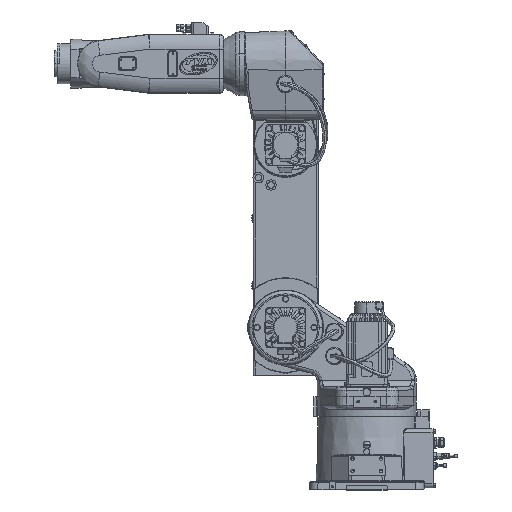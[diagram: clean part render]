
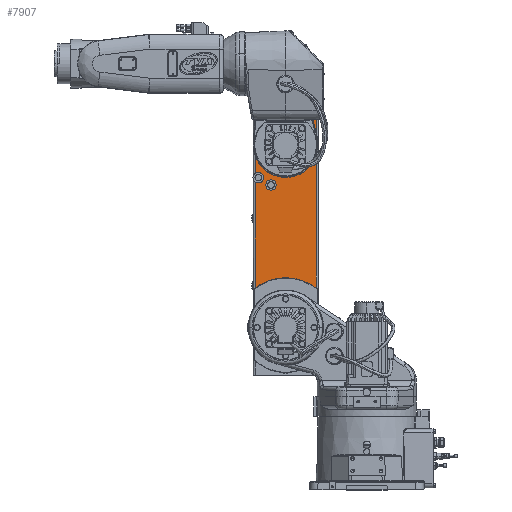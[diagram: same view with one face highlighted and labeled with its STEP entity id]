
A CAD part, top view. The second image highlights one B-rep face of the part: STEP entity #7907.
In plain terms, the highlighted planar face has unit normal (0, 0, 1).
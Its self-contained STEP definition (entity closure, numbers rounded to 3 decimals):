
#1307=DIRECTION('',(0.,-1.,0.));
#1308=VECTOR('',#1307,261.464);
#1309=CARTESIAN_POINT('',(-275.,758.952,-93.5));
#1310=LINE('',#1309,#1308);
#1323=DIRECTION('',(0.,-1.,0.));
#1324=VECTOR('',#1323,153.021);
#1325=CARTESIAN_POINT('',(-275.,933.2,-93.5));
#1326=LINE('',#1325,#1324);
#1365=CARTESIAN_POINT('',(-267.493,769.565,-93.5));
#1366=DIRECTION('',(0.,0.,1.));
#1367=DIRECTION('',(-0.577,-0.816,0.));
#1368=AXIS2_PLACEMENT_3D('',#1365,#1366,#1367);
#1370=CARTESIAN_POINT('',(-267.493,769.565,-93.5));
#1371=DIRECTION('',(0.,0.,1.));
#1372=DIRECTION('',(1.,0.,0.));
#1373=AXIS2_PLACEMENT_3D('',#1370,#1371,#1372);
#1375=DIRECTION('',(-1.,0.,0.));
#1376=VECTOR('',#1375,70.5);
#1377=CARTESIAN_POINT('',(-204.5,933.2,-93.5));
#1378=LINE('',#1377,#1376);
#1379=DIRECTION('',(-1.,0.,0.));
#1380=VECTOR('',#1379,70.5);
#1381=CARTESIAN_POINT('',(-125.,933.2,-93.5));
#1382=LINE('',#1381,#1380);
#1383=CARTESIAN_POINT('',(-200.,400.,-93.5));
#1384=DIRECTION('',(0.,0.,-1.));
#1385=DIRECTION('',(-0.61,0.793,0.));
#1386=AXIS2_PLACEMENT_3D('',#1383,#1384,#1385);
#1398=CARTESIAN_POINT('',(-235.912,751.332,-93.5));
#1399=DIRECTION('',(0.,0.,1.));
#1400=DIRECTION('',(-1.,0.,0.));
#1401=AXIS2_PLACEMENT_3D('',#1398,#1399,#1400);
#1403=CARTESIAN_POINT('',(-235.912,751.332,-93.5));
#1404=DIRECTION('',(0.,0.,1.));
#1405=DIRECTION('',(1.,0.,0.));
#1406=AXIS2_PLACEMENT_3D('',#1403,#1404,#1405);
#1540=DIRECTION('',(0.,1.,0.));
#1541=VECTOR('',#1540,3.2);
#1542=CARTESIAN_POINT('',(-204.5,930.,-93.5));
#1543=LINE('',#1542,#1541);
#1580=DIRECTION('',(1.,0.,0.));
#1581=VECTOR('',#1580,9.);
#1582=CARTESIAN_POINT('',(-204.5,930.,-93.5));
#1583=LINE('',#1582,#1581);
#1616=DIRECTION('',(0.,-1.,0.));
#1617=VECTOR('',#1616,3.2);
#1618=CARTESIAN_POINT('',(-195.5,933.2,-93.5));
#1619=LINE('',#1618,#1617);
#1888=DIRECTION('',(0.,1.,0.));
#1889=VECTOR('',#1888,435.712);
#1890=CARTESIAN_POINT('',(-125.,497.488,-93.5));
#1891=LINE('',#1890,#1889);
#5026=CARTESIAN_POINT('',(-275.,497.488,-93.5));
#5027=CARTESIAN_POINT('',(-125.,497.488,-93.5));
#5028=VERTEX_POINT('',#5026);
#5029=VERTEX_POINT('',#5027);
#5087=CARTESIAN_POINT('',(-204.5,933.2,-93.5));
#5089=VERTEX_POINT('',#5087);
#5091=CARTESIAN_POINT('',(-275.,933.2,-93.5));
#5092=VERTEX_POINT('',#5091);
#5113=CARTESIAN_POINT('',(-125.,933.2,-93.5));
#5114=VERTEX_POINT('',#5113);
#5115=CARTESIAN_POINT('',(-195.5,933.2,-93.5));
#5116=VERTEX_POINT('',#5115);
#5155=CARTESIAN_POINT('',(-204.5,930.,-93.5));
#5157=VERTEX_POINT('',#5155);
#5159=CARTESIAN_POINT('',(-195.5,930.,-93.5));
#5161=VERTEX_POINT('',#5159);
#5551=CARTESIAN_POINT('',(-275.,758.952,-93.5));
#5552=CARTESIAN_POINT('',(-254.493,769.565,-93.5));
#5553=VERTEX_POINT('',#5551);
#5554=VERTEX_POINT('',#5552);
#5555=CARTESIAN_POINT('',(-275.,780.179,-93.5));
#5556=VERTEX_POINT('',#5555);
#5573=CARTESIAN_POINT('',(-248.912,751.332,-93.5));
#5574=CARTESIAN_POINT('',(-222.912,751.332,-93.5));
#5575=VERTEX_POINT('',#5573);
#5576=VERTEX_POINT('',#5574);
#7875=CARTESIAN_POINT('',(-200.,713.744,-93.5));
#7876=DIRECTION('',(0.,0.,1.));
#7877=DIRECTION('',(1.,0.,0.));
#7878=AXIS2_PLACEMENT_3D('',#7875,#7876,#7877);
#7879=PLANE('',#7878);
#7881=ORIENTED_EDGE('',*,*,#7880,.T.);
#7882=ORIENTED_EDGE('',*,*,#7856,.T.);
#7883=ORIENTED_EDGE('',*,*,#7814,.F.);
#7885=ORIENTED_EDGE('',*,*,#7884,.F.);
#7887=ORIENTED_EDGE('',*,*,#7886,.F.);
#7889=ORIENTED_EDGE('',*,*,#7888,.T.);
#7891=ORIENTED_EDGE('',*,*,#7890,.F.);
#7893=ORIENTED_EDGE('',*,*,#7892,.F.);
#7895=ORIENTED_EDGE('',*,*,#7894,.F.);
#7897=ORIENTED_EDGE('',*,*,#7896,.F.);
#7898=ORIENTED_EDGE('',*,*,#7796,.F.);
#7899=EDGE_LOOP('',(#7881,#7882,#7883,#7885,#7887,#7889,#7891,#7893,#7895,#7897,
#7898));
#7900=FACE_OUTER_BOUND('',#7899,.F.);
#7902=ORIENTED_EDGE('',*,*,#7901,.T.);
#7904=ORIENTED_EDGE('',*,*,#7903,.T.);
#7905=EDGE_LOOP('',(#7902,#7904));
#7906=FACE_BOUND('',#7905,.F.);
#1369=CIRCLE('',#1368,13.);
#1374=CIRCLE('',#1373,13.);
#1387=CIRCLE('',#1386,123.);
#1402=CIRCLE('',#1401,13.);
#1407=CIRCLE('',#1406,13.);
#7796=EDGE_CURVE('',#5553,#5028,#1310,.T.);
#7814=EDGE_CURVE('',#5092,#5556,#1326,.T.);
#7856=EDGE_CURVE('',#5554,#5556,#1374,.T.);
#7880=EDGE_CURVE('',#5553,#5554,#1369,.T.);
#7884=EDGE_CURVE('',#5089,#5092,#1378,.T.);
#7886=EDGE_CURVE('',#5157,#5089,#1543,.T.);
#7888=EDGE_CURVE('',#5157,#5161,#1583,.T.);
#7890=EDGE_CURVE('',#5116,#5161,#1619,.T.);
#7892=EDGE_CURVE('',#5114,#5116,#1382,.T.);
#7894=EDGE_CURVE('',#5029,#5114,#1891,.T.);
#7896=EDGE_CURVE('',#5028,#5029,#1387,.T.);
#7901=EDGE_CURVE('',#5575,#5576,#1402,.T.);
#7903=EDGE_CURVE('',#5576,#5575,#1407,.T.);
#7907=ADVANCED_FACE('',(#7900,#7906),#7879,.T.);
